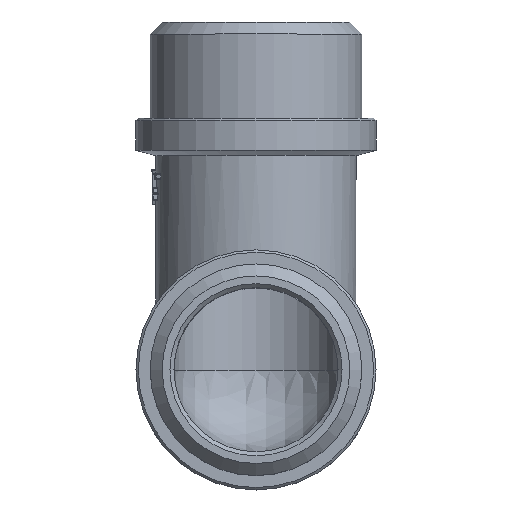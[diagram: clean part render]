
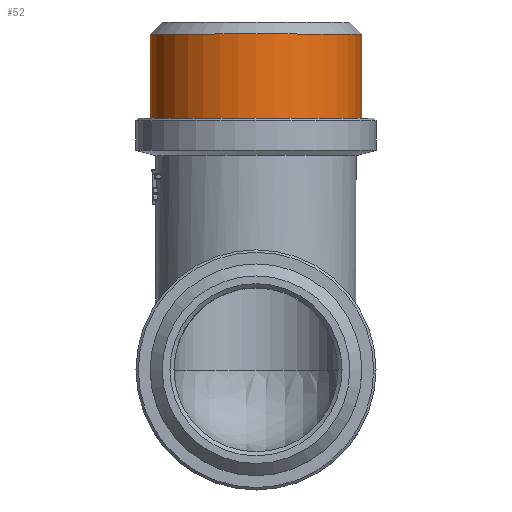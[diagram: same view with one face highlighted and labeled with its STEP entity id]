
A CAD part, top view. The second image highlights one B-rep face of the part: STEP entity #52.
In plain terms, the highlighted cylindrical face has radius 13.22 mm (diameter 26.441 mm), a full revolution.
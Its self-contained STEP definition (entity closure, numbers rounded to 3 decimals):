
#52=ADVANCED_FACE('',(#373,#375),#377,.T.);
#373=FACE_OUTER_BOUND('',#374,.T.);
#374=EDGE_LOOP('',(#2370));
#375=FACE_OUTER_BOUND('',#376,.T.);
#376=EDGE_LOOP('',(#2371));
#377=CYLINDRICAL_SURFACE('',#378,13.221);
#378=AXIS2_PLACEMENT_3D('',#379,#380,#381);
#379=CARTESIAN_POINT('',(0.,31.5,0.));
#380=DIRECTION('',(0.,1.,0.));
#381=DIRECTION('',(-1.,0.,0.));
#2370=ORIENTED_EDGE('',*,*,#4185,.F.);
#2371=ORIENTED_EDGE('',*,*,#4187,.F.);
#4185=EDGE_CURVE('',#4900,#4900,#4901,.T.);
#4187=EDGE_CURVE('',#4904,#4904,#4905,.F.);
#4900=VERTEX_POINT('',#6116);
#4901=CIRCLE('',#6117,13.221);
#4904=VERTEX_POINT('',#6126);
#4905=CIRCLE('',#6127,13.221);
#6116=CARTESIAN_POINT('',(-13.221,42.,0.));
#6117=AXIS2_PLACEMENT_3D('',#6118,#6119,#6120);
#6118=CARTESIAN_POINT('',(0.,42.,0.));
#6119=DIRECTION('',(0.,1.,0.));
#6120=DIRECTION('',(-1.,0.,0.));
#6126=CARTESIAN_POINT('',(-13.221,31.5,0.));
#6127=AXIS2_PLACEMENT_3D('',#6128,#6129,#6130);
#6128=CARTESIAN_POINT('',(0.,31.5,0.));
#6129=DIRECTION('',(0.,1.,0.));
#6130=DIRECTION('',(-1.,0.,0.));
